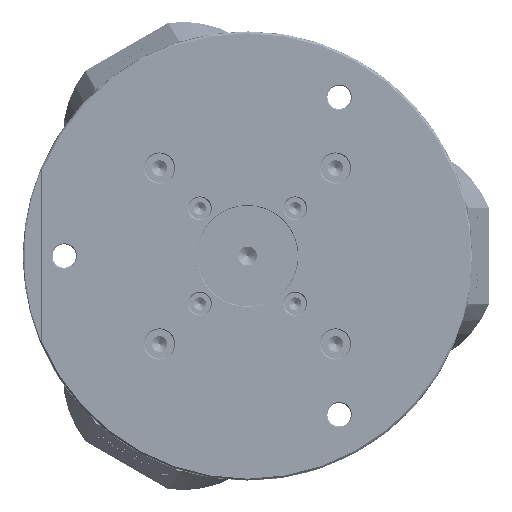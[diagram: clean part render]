
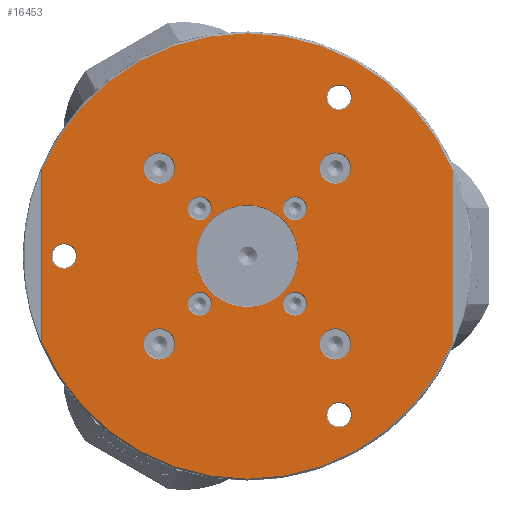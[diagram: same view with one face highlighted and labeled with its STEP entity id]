
A CAD part, front view. The second image highlights one B-rep face of the part: STEP entity #16453.
In plain terms, the highlighted planar face has unit normal (0, -1, 0).
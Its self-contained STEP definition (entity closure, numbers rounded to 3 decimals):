
#2=CARTESIAN_POINT('',(-48.,-5.,48.));
#3=DIRECTION('',(0.,1.,0.));
#4=DIRECTION('',(1.,0.,0.));
#5=AXIS2_PLACEMENT_3D('',#2,#3,#4);
#7=CARTESIAN_POINT('',(-48.,-5.,48.));
#8=DIRECTION('',(0.,1.,0.));
#9=DIRECTION('',(-1.,0.,0.));
#10=AXIS2_PLACEMENT_3D('',#7,#8,#9);
#12=CARTESIAN_POINT('',(-26.,-5.,26.));
#13=DIRECTION('',(0.,1.,0.));
#14=DIRECTION('',(1.,0.,0.));
#15=AXIS2_PLACEMENT_3D('',#12,#13,#14);
#17=CARTESIAN_POINT('',(-26.,-5.,26.));
#18=DIRECTION('',(0.,1.,0.));
#19=DIRECTION('',(-1.,0.,0.));
#20=AXIS2_PLACEMENT_3D('',#17,#18,#19);
#22=CARTESIAN_POINT('',(26.,-5.,26.));
#23=DIRECTION('',(0.,1.,0.));
#24=DIRECTION('',(1.,0.,0.));
#25=AXIS2_PLACEMENT_3D('',#22,#23,#24);
#27=CARTESIAN_POINT('',(26.,-5.,26.));
#28=DIRECTION('',(0.,1.,0.));
#29=DIRECTION('',(-1.,0.,0.));
#30=AXIS2_PLACEMENT_3D('',#27,#28,#29);
#32=CARTESIAN_POINT('',(48.,-5.,48.));
#33=DIRECTION('',(0.,1.,0.));
#34=DIRECTION('',(1.,0.,0.));
#35=AXIS2_PLACEMENT_3D('',#32,#33,#34);
#37=CARTESIAN_POINT('',(48.,-5.,48.));
#38=DIRECTION('',(0.,1.,0.));
#39=DIRECTION('',(-1.,0.,0.));
#40=AXIS2_PLACEMENT_3D('',#37,#38,#39);
#42=CARTESIAN_POINT('',(26.,-5.,-26.));
#43=DIRECTION('',(0.,1.,0.));
#44=DIRECTION('',(1.,0.,0.));
#45=AXIS2_PLACEMENT_3D('',#42,#43,#44);
#47=CARTESIAN_POINT('',(26.,-5.,-26.));
#48=DIRECTION('',(0.,1.,0.));
#49=DIRECTION('',(-1.,0.,0.));
#50=AXIS2_PLACEMENT_3D('',#47,#48,#49);
#52=CARTESIAN_POINT('',(-26.,-5.,-26.));
#53=DIRECTION('',(0.,1.,0.));
#54=DIRECTION('',(1.,0.,0.));
#55=AXIS2_PLACEMENT_3D('',#52,#53,#54);
#57=CARTESIAN_POINT('',(-26.,-5.,-26.));
#58=DIRECTION('',(0.,1.,0.));
#59=DIRECTION('',(-1.,0.,0.));
#60=AXIS2_PLACEMENT_3D('',#57,#58,#59);
#62=CARTESIAN_POINT('',(-48.,-5.,-48.));
#63=DIRECTION('',(0.,1.,0.));
#64=DIRECTION('',(1.,0.,0.));
#65=AXIS2_PLACEMENT_3D('',#62,#63,#64);
#67=CARTESIAN_POINT('',(-48.,-5.,-48.));
#68=DIRECTION('',(0.,1.,0.));
#69=DIRECTION('',(-1.,0.,0.));
#70=AXIS2_PLACEMENT_3D('',#67,#68,#69);
#72=CARTESIAN_POINT('',(48.,-5.,-48.));
#73=DIRECTION('',(0.,1.,0.));
#74=DIRECTION('',(1.,0.,0.));
#75=AXIS2_PLACEMENT_3D('',#72,#73,#74);
#77=CARTESIAN_POINT('',(48.,-5.,-48.));
#78=DIRECTION('',(0.,1.,0.));
#79=DIRECTION('',(-1.,0.,0.));
#80=AXIS2_PLACEMENT_3D('',#77,#78,#79);
#82=CARTESIAN_POINT('',(0.,-5.,0.));
#83=DIRECTION('',(0.,1.,0.));
#84=DIRECTION('',(1.,0.,0.));
#85=AXIS2_PLACEMENT_3D('',#82,#83,#84);
#87=CARTESIAN_POINT('',(0.,-5.,0.));
#88=DIRECTION('',(0.,1.,0.));
#89=DIRECTION('',(-1.,0.,0.));
#90=AXIS2_PLACEMENT_3D('',#87,#88,#89);
#92=CARTESIAN_POINT('',(-100.,-5.,0.));
#93=DIRECTION('',(0.,1.,0.));
#94=DIRECTION('',(-1.,0.,0.));
#95=AXIS2_PLACEMENT_3D('',#92,#93,#94);
#97=CARTESIAN_POINT('',(-100.,-5.,0.));
#98=DIRECTION('',(0.,1.,0.));
#99=DIRECTION('',(1.,0.,0.));
#100=AXIS2_PLACEMENT_3D('',#97,#98,#99);
#102=CARTESIAN_POINT('',(50.,-5.,86.603));
#103=DIRECTION('',(0.,1.,0.));
#104=DIRECTION('',(-0.5,0.,-0.866));
#105=AXIS2_PLACEMENT_3D('',#102,#103,#104);
#107=CARTESIAN_POINT('',(50.,-5.,86.603));
#108=DIRECTION('',(0.,1.,0.));
#109=DIRECTION('',(0.5,0.,0.866));
#110=AXIS2_PLACEMENT_3D('',#107,#108,#109);
#112=CARTESIAN_POINT('',(50.,-5.,-86.603));
#113=DIRECTION('',(0.,1.,0.));
#114=DIRECTION('',(0.5,0.,-0.866));
#115=AXIS2_PLACEMENT_3D('',#112,#113,#114);
#117=CARTESIAN_POINT('',(50.,-5.,-86.603));
#118=DIRECTION('',(0.,1.,0.));
#119=DIRECTION('',(-0.5,0.,0.866));
#120=AXIS2_PLACEMENT_3D('',#117,#118,#119);
#122=DIRECTION('',(0.,0.,1.));
#123=VECTOR('',#122,94.197);
#124=CARTESIAN_POINT('',(112.,-5.,-47.098));
#125=LINE('',#124,#123);
#126=DIRECTION('',(0.,0.,-1.));
#127=VECTOR('',#126,94.197);
#128=CARTESIAN_POINT('',(-112.,-5.,47.098));
#129=LINE('',#128,#127);
#12743=CARTESIAN_POINT('',(112.,-5.,47.098));
#12749=CARTESIAN_POINT('',(0.,-5.,0.));
#12750=DIRECTION('',(0.,-1.,0.));
#12751=DIRECTION('',(0.922,0.,0.388));
#12752=AXIS2_PLACEMENT_3D('',#12749,#12750,#12751);
#12758=CARTESIAN_POINT('',(-112.,-5.,47.098));
#12776=CARTESIAN_POINT('',(112.,-5.,-47.098));
#12790=CARTESIAN_POINT('',(-112.,-5.,-47.098));
#12796=CARTESIAN_POINT('',(0.,-5.,0.));
#12797=DIRECTION('',(0.,-1.,0.));
#12798=DIRECTION('',(-0.922,0.,-0.388));
#12799=AXIS2_PLACEMENT_3D('',#12796,#12797,#12798);
#15954=CARTESIAN_POINT('',(-39.5,-5.,48.));
#15955=CARTESIAN_POINT('',(-56.5,-5.,48.));
#15956=VERTEX_POINT('',#15954);
#15957=VERTEX_POINT('',#15955);
#15962=CARTESIAN_POINT('',(-19.5,-5.,26.));
#15963=CARTESIAN_POINT('',(-32.5,-5.,26.));
#15964=VERTEX_POINT('',#15962);
#15965=VERTEX_POINT('',#15963);
#15970=CARTESIAN_POINT('',(32.5,-5.,26.));
#15971=CARTESIAN_POINT('',(19.5,-5.,26.));
#15972=VERTEX_POINT('',#15970);
#15973=VERTEX_POINT('',#15971);
#15978=CARTESIAN_POINT('',(56.5,-5.,48.));
#15979=CARTESIAN_POINT('',(39.5,-5.,48.));
#15980=VERTEX_POINT('',#15978);
#15981=VERTEX_POINT('',#15979);
#15986=CARTESIAN_POINT('',(32.5,-5.,-26.));
#15987=CARTESIAN_POINT('',(19.5,-5.,-26.));
#15988=VERTEX_POINT('',#15986);
#15989=VERTEX_POINT('',#15987);
#15994=CARTESIAN_POINT('',(-19.5,-5.,-26.));
#15995=CARTESIAN_POINT('',(-32.5,-5.,-26.));
#15996=VERTEX_POINT('',#15994);
#15997=VERTEX_POINT('',#15995);
#16002=CARTESIAN_POINT('',(-39.5,-5.,-48.));
#16003=CARTESIAN_POINT('',(-56.5,-5.,-48.));
#16004=VERTEX_POINT('',#16002);
#16005=VERTEX_POINT('',#16003);
#16010=CARTESIAN_POINT('',(56.5,-5.,-48.));
#16011=CARTESIAN_POINT('',(39.5,-5.,-48.));
#16012=VERTEX_POINT('',#16010);
#16013=VERTEX_POINT('',#16011);
#16018=CARTESIAN_POINT('',(27.8,-5.,0.));
#16019=CARTESIAN_POINT('',(-27.8,-5.,0.));
#16020=VERTEX_POINT('',#16018);
#16021=VERTEX_POINT('',#16019);
#16192=CARTESIAN_POINT('',(-106.9,-5.,0.));
#16193=CARTESIAN_POINT('',(-93.1,-5.,0.));
#16194=VERTEX_POINT('',#16192);
#16195=VERTEX_POINT('',#16193);
#16208=CARTESIAN_POINT('',(46.55,-5.,80.627));
#16209=CARTESIAN_POINT('',(53.45,-5.,92.578));
#16210=VERTEX_POINT('',#16208);
#16211=VERTEX_POINT('',#16209);
#16224=CARTESIAN_POINT('',(53.45,-5.,-92.578));
#16225=CARTESIAN_POINT('',(46.55,-5.,-80.627));
#16226=VERTEX_POINT('',#16224);
#16227=VERTEX_POINT('',#16225);
#16246=VERTEX_POINT('',#12743);
#16250=VERTEX_POINT('',#12776);
#16251=VERTEX_POINT('',#12790);
#16255=VERTEX_POINT('',#12758);
#16366=CARTESIAN_POINT('',(0.,-5.,0.));
#16367=DIRECTION('',(0.,1.,0.));
#16368=DIRECTION('',(1.,0.,0.));
#16369=AXIS2_PLACEMENT_3D('',#16366,#16367,#16368);
#16370=PLANE('',#16369);
#16372=ORIENTED_EDGE('',*,*,#16371,.F.);
#16374=ORIENTED_EDGE('',*,*,#16373,.F.);
#16376=ORIENTED_EDGE('',*,*,#16375,.F.);
#16378=ORIENTED_EDGE('',*,*,#16377,.F.);
#16379=EDGE_LOOP('',(#16372,#16374,#16376,#16378));
#16380=FACE_OUTER_BOUND('',#16379,.F.);
#16382=ORIENTED_EDGE('',*,*,#16381,.F.);
#16384=ORIENTED_EDGE('',*,*,#16383,.F.);
#16385=EDGE_LOOP('',(#16382,#16384));
#16386=FACE_BOUND('',#16385,.F.);
#16388=ORIENTED_EDGE('',*,*,#16387,.F.);
#16390=ORIENTED_EDGE('',*,*,#16389,.F.);
#16391=EDGE_LOOP('',(#16388,#16390));
#16392=FACE_BOUND('',#16391,.F.);
#16394=ORIENTED_EDGE('',*,*,#16393,.F.);
#16396=ORIENTED_EDGE('',*,*,#16395,.F.);
#16397=EDGE_LOOP('',(#16394,#16396));
#16398=FACE_BOUND('',#16397,.F.);
#16400=ORIENTED_EDGE('',*,*,#16399,.F.);
#16402=ORIENTED_EDGE('',*,*,#16401,.F.);
#16403=EDGE_LOOP('',(#16400,#16402));
#16404=FACE_BOUND('',#16403,.F.);
#16406=ORIENTED_EDGE('',*,*,#16405,.F.);
#16408=ORIENTED_EDGE('',*,*,#16407,.F.);
#16409=EDGE_LOOP('',(#16406,#16408));
#16410=FACE_BOUND('',#16409,.F.);
#16412=ORIENTED_EDGE('',*,*,#16411,.F.);
#16414=ORIENTED_EDGE('',*,*,#16413,.F.);
#16415=EDGE_LOOP('',(#16412,#16414));
#16416=FACE_BOUND('',#16415,.F.);
#16418=ORIENTED_EDGE('',*,*,#16417,.F.);
#16420=ORIENTED_EDGE('',*,*,#16419,.F.);
#16421=EDGE_LOOP('',(#16418,#16420));
#16422=FACE_BOUND('',#16421,.F.);
#16424=ORIENTED_EDGE('',*,*,#16423,.F.);
#16426=ORIENTED_EDGE('',*,*,#16425,.F.);
#16427=EDGE_LOOP('',(#16424,#16426));
#16428=FACE_BOUND('',#16427,.F.);
#16430=ORIENTED_EDGE('',*,*,#16429,.F.);
#16432=ORIENTED_EDGE('',*,*,#16431,.F.);
#16433=EDGE_LOOP('',(#16430,#16432));
#16434=FACE_BOUND('',#16433,.F.);
#16436=ORIENTED_EDGE('',*,*,#16435,.F.);
#16438=ORIENTED_EDGE('',*,*,#16437,.F.);
#16439=EDGE_LOOP('',(#16436,#16438));
#16440=FACE_BOUND('',#16439,.F.);
#16442=ORIENTED_EDGE('',*,*,#16441,.F.);
#16444=ORIENTED_EDGE('',*,*,#16443,.F.);
#16445=EDGE_LOOP('',(#16442,#16444));
#16446=FACE_BOUND('',#16445,.F.);
#16448=ORIENTED_EDGE('',*,*,#16447,.F.);
#16450=ORIENTED_EDGE('',*,*,#16449,.F.);
#16451=EDGE_LOOP('',(#16448,#16450));
#16452=FACE_BOUND('',#16451,.F.);
#16453=ADVANCED_FACE('',(#16380,#16386,#16392,#16398,#16404,#16410,#16416,
#16422,#16428,#16434,#16440,#16446,#16452),#16370,.F.);
#6=CIRCLE('',#5,8.5);
#11=CIRCLE('',#10,8.5);
#16=CIRCLE('',#15,6.5);
#21=CIRCLE('',#20,6.5);
#26=CIRCLE('',#25,6.5);
#31=CIRCLE('',#30,6.5);
#36=CIRCLE('',#35,8.5);
#41=CIRCLE('',#40,8.5);
#46=CIRCLE('',#45,6.5);
#51=CIRCLE('',#50,6.5);
#56=CIRCLE('',#55,6.5);
#61=CIRCLE('',#60,6.5);
#66=CIRCLE('',#65,8.5);
#71=CIRCLE('',#70,8.5);
#76=CIRCLE('',#75,8.5);
#81=CIRCLE('',#80,8.5);
#86=CIRCLE('',#85,27.8);
#91=CIRCLE('',#90,27.8);
#96=CIRCLE('',#95,6.9);
#101=CIRCLE('',#100,6.9);
#106=CIRCLE('',#105,6.9);
#111=CIRCLE('',#110,6.9);
#116=CIRCLE('',#115,6.9);
#121=CIRCLE('',#120,6.9);
#12753=CIRCLE('',#12752,121.5);
#12800=CIRCLE('',#12799,121.5);
#16371=EDGE_CURVE('',#16250,#16246,#125,.T.);
#16373=EDGE_CURVE('',#16251,#16250,#12800,.T.);
#16375=EDGE_CURVE('',#16255,#16251,#129,.T.);
#16377=EDGE_CURVE('',#16246,#16255,#12753,.T.);
#16381=EDGE_CURVE('',#15964,#15965,#16,.T.);
#16383=EDGE_CURVE('',#15965,#15964,#21,.T.);
#16387=EDGE_CURVE('',#15972,#15973,#26,.T.);
#16389=EDGE_CURVE('',#15973,#15972,#31,.T.);
#16393=EDGE_CURVE('',#15980,#15981,#36,.T.);
#16395=EDGE_CURVE('',#15981,#15980,#41,.T.);
#16399=EDGE_CURVE('',#15988,#15989,#46,.T.);
#16401=EDGE_CURVE('',#15989,#15988,#51,.T.);
#16405=EDGE_CURVE('',#15996,#15997,#56,.T.);
#16407=EDGE_CURVE('',#15997,#15996,#61,.T.);
#16411=EDGE_CURVE('',#16004,#16005,#66,.T.);
#16413=EDGE_CURVE('',#16005,#16004,#71,.T.);
#16417=EDGE_CURVE('',#16012,#16013,#76,.T.);
#16419=EDGE_CURVE('',#16013,#16012,#81,.T.);
#16423=EDGE_CURVE('',#16020,#16021,#86,.T.);
#16425=EDGE_CURVE('',#16021,#16020,#91,.T.);
#16429=EDGE_CURVE('',#16194,#16195,#96,.T.);
#16431=EDGE_CURVE('',#16195,#16194,#101,.T.);
#16435=EDGE_CURVE('',#16210,#16211,#106,.T.);
#16437=EDGE_CURVE('',#16211,#16210,#111,.T.);
#16441=EDGE_CURVE('',#16226,#16227,#116,.T.);
#16443=EDGE_CURVE('',#16227,#16226,#121,.T.);
#16447=EDGE_CURVE('',#15956,#15957,#6,.T.);
#16449=EDGE_CURVE('',#15957,#15956,#11,.T.);
